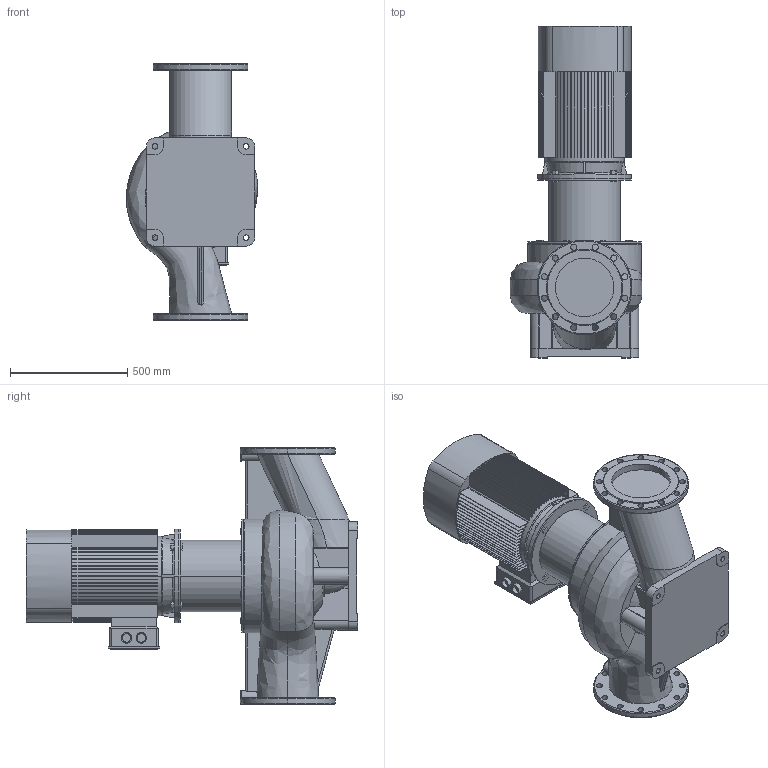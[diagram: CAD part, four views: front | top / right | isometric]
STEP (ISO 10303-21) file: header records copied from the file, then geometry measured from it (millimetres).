
FILE_DESCRIPTION (( 'STEP AP203' ), '1' );
FILE_NAME ('TD250-16_4.STEP', '2022-05-02T18:04:56', ( '' ), ( '' ), 'SwSTEP 2.0', 'SolidWorks 2019', '' );
FILE_SCHEMA (( 'CONFIG_CONTROL_DESIGN' ));
Length unit declared in the file: millimetre
Products named in the file (4): ED_B5_YE2-200L-4 (30); TD250-16_4; Pr_ch 250_TD250-16_4; Fon_250_TD250-16_4
Assembly tree (3 placements, depth 2):
  TD250-16_4
    Pr_ch 250_TD250-16_4
    Fon_250_TD250-16_4
    ED_B5_YE2-200L-4 (30)
Bounding box: 561.04 x 1417 x 1100 mm (x, y, z)
Volume: 199674952 mm3; surface area: 6335255.6 mm2
Topology: 5 solids, 7 shells, 753 faces, 2079 edges, 1378 vertices
Faces by surface type: plane 500, cylinder 181, torus 34, bspline 21, cone 17
Entity records: 33478 total; most frequent: CARTESIAN_POINT 13397, ORIENTED_EDGE 4158, DIRECTION 4103, EDGE_CURVE 2079, AXIS2_PLACEMENT_3D 1435, VERTEX_POINT 1378, VECTOR 1233, LINE 1233
